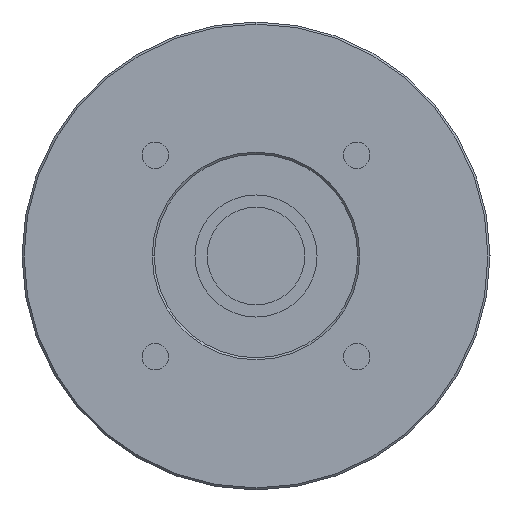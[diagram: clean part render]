
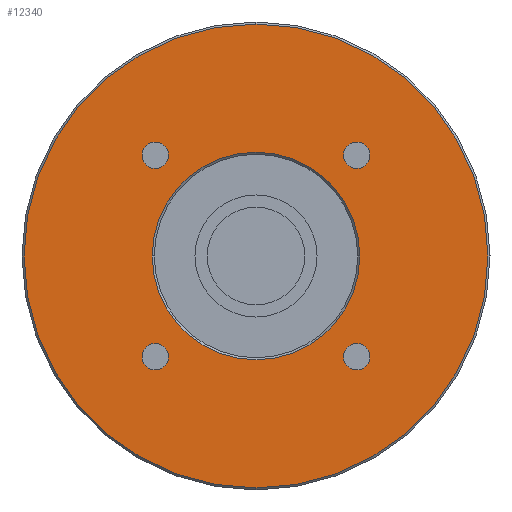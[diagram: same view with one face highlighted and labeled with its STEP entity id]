
A CAD part, left-side view. The second image highlights one B-rep face of the part: STEP entity #12340.
In plain terms, the highlighted planar face has unit normal (-1, 0, 0) as drawn and (0, 0, -1) by its records, which use the part's own axes.
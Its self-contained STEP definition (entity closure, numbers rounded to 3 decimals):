
#11170=CARTESIAN_POINT('',(0.,57.,-65.6));
#11180=VERTEX_POINT('',#11170);
#11210=CARTESIAN_POINT('',(0.,0.,
-65.6));
#11220=DIRECTION('',(0.,0.,-1.));
#11230=DIRECTION('',(1.,0.,0.));
#11240=AXIS2_PLACEMENT_3D('',#11210,#11220,#11230);
#11250=CIRCLE('',#11240,57.);
#11260=CARTESIAN_POINT('',(57.,0.,-65.6));
#11270=VERTEX_POINT('',#11260);
#11280=EDGE_CURVE('',#11180,#11270,#11250,.T.);
#11300=CARTESIAN_POINT('',(0.,-57.,-65.6));
#11310=VERTEX_POINT('',#11300);
#11320=EDGE_CURVE('',#11270,#11310,#11250,.T.);
#11480=CARTESIAN_POINT('',(0.,0.,
-65.6));
#11490=DIRECTION('',(0.,0.,-1.));
#11500=DIRECTION('',(1.,0.,0.));
#11510=AXIS2_PLACEMENT_3D('',#11480,#11490,#11500);
#11520=PLANE('',#11510);
#11530=EDGE_CURVE('',#11310,#11180,#11250,.T.);
#11540=ORIENTED_EDGE('',*,*,#11530,.T.);
#11550=ORIENTED_EDGE('',*,*,#11320,.T.);
#11560=ORIENTED_EDGE('',*,*,#11280,.T.);
#11570=EDGE_LOOP('',(#11560,#11550,#11540));
#11580=FACE_OUTER_BOUND('',#11570,.T.);
#11590=CARTESIAN_POINT('',(0.,0.,
-65.6));
#11600=DIRECTION('',(0.,0.,-1.));
#11610=DIRECTION('',(1.,0.,0.));
#11620=AXIS2_PLACEMENT_3D('',#11590,#11600,#11610);
#11630=CIRCLE('',#11620,25.5);
#11640=CARTESIAN_POINT('',(25.5,0.,-65.6));
#11650=VERTEX_POINT('',#11640);
#11660=CARTESIAN_POINT('',(-25.5,0.,-65.6));
#11670=VERTEX_POINT('',#11660);
#11680=EDGE_CURVE('',#11650,#11670,#11630,.T.);
#11690=ORIENTED_EDGE('',*,*,#11680,.F.);
#11700=EDGE_CURVE('',#11670,#11650,#11630,.T.);
#11710=ORIENTED_EDGE('',*,*,#11700,.F.);
#11720=EDGE_LOOP('',(#11710,#11690));
#11730=FACE_BOUND('',#11720,.T.);
#11740=CARTESIAN_POINT('',(24.749,-24.749,-65.6));
#11750=DIRECTION('',(0.,0.,-1.));
#11760=DIRECTION('',(1.,0.,0.));
#11770=AXIS2_PLACEMENT_3D('',#11740,#11750,#11760);
#11780=CIRCLE('',#11770,3.25);
#11790=CARTESIAN_POINT('',(27.999,-24.749,-65.6));
#11800=VERTEX_POINT('',#11790);
#11810=CARTESIAN_POINT('',(21.499,-24.749,-65.6));
#11820=VERTEX_POINT('',#11810);
#11830=EDGE_CURVE('',#11800,#11820,#11780,.T.);
#11840=ORIENTED_EDGE('',*,*,#11830,.F.);
#11850=EDGE_CURVE('',#11820,#11800,#11780,.T.);
#11860=ORIENTED_EDGE('',*,*,#11850,.F.);
#11870=EDGE_LOOP('',(#11860,#11840));
#11880=FACE_BOUND('',#11870,.T.);
#11890=CARTESIAN_POINT('',(24.749,24.749,-65.6));
#11900=DIRECTION('',(0.,0.,-1.));
#11910=DIRECTION('',(1.,0.,0.));
#11920=AXIS2_PLACEMENT_3D('',#11890,#11900,#11910);
#11930=CIRCLE('',#11920,3.25);
#11940=CARTESIAN_POINT('',(27.999,24.749,-65.6));
#11950=VERTEX_POINT('',#11940);
#11960=CARTESIAN_POINT('',(21.499,24.749,-65.6));
#11970=VERTEX_POINT('',#11960);
#11980=EDGE_CURVE('',#11950,#11970,#11930,.T.);
#11990=ORIENTED_EDGE('',*,*,#11980,.F.);
#12000=EDGE_CURVE('',#11970,#11950,#11930,.T.);
#12010=ORIENTED_EDGE('',*,*,#12000,.F.);
#12020=EDGE_LOOP('',(#12010,#11990));
#12030=FACE_BOUND('',#12020,.T.);
#12040=CARTESIAN_POINT('',(-24.749,24.749,-65.6));
#12050=DIRECTION('',(0.,0.,-1.));
#12060=DIRECTION('',(1.,0.,0.));
#12070=AXIS2_PLACEMENT_3D('',#12040,#12050,#12060);
#12080=CIRCLE('',#12070,3.25);
#12090=CARTESIAN_POINT('',(-21.499,24.749,-65.6));
#12100=VERTEX_POINT('',#12090);
#12110=CARTESIAN_POINT('',(-27.999,24.749,-65.6));
#12120=VERTEX_POINT('',#12110);
#12130=EDGE_CURVE('',#12100,#12120,#12080,.T.);
#12140=ORIENTED_EDGE('',*,*,#12130,.F.);
#12150=EDGE_CURVE('',#12120,#12100,#12080,.T.);
#12160=ORIENTED_EDGE('',*,*,#12150,.F.);
#12170=EDGE_LOOP('',(#12160,#12140));
#12180=FACE_BOUND('',#12170,.T.);
#12190=CARTESIAN_POINT('',(-24.749,-24.749,-65.6));
#12200=DIRECTION('',(0.,0.,-1.));
#12210=DIRECTION('',(1.,0.,0.));
#12220=AXIS2_PLACEMENT_3D('',#12190,#12200,#12210);
#12230=CIRCLE('',#12220,3.25);
#12240=CARTESIAN_POINT('',(-21.499,-24.749,-65.6));
#12250=VERTEX_POINT('',#12240);
#12260=CARTESIAN_POINT('',(-27.999,-24.749,-65.6));
#12270=VERTEX_POINT('',#12260);
#12280=EDGE_CURVE('',#12250,#12270,#12230,.T.);
#12290=ORIENTED_EDGE('',*,*,#12280,.F.);
#12300=EDGE_CURVE('',#12270,#12250,#12230,.T.);
#12310=ORIENTED_EDGE('',*,*,#12300,.F.);
#12320=EDGE_LOOP('',(#12310,#12290));
#12330=FACE_BOUND('',#12320,.T.);
#12340=ADVANCED_FACE('',(#11580,#11730,#11880,#12030,#12180,#12330),
#11520,.T.);
